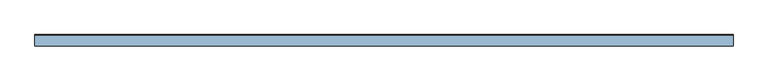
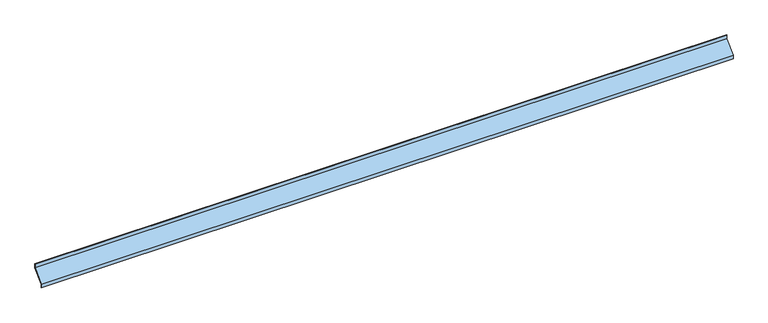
"""IFC4 building model written with IfcOpenShell, lengths in millimetres: window geometry, B2B_Отлив : Отлив_металлический."""

from ifc_helpers import new_model, si_unit, frame, origin, place, context, project, spatial, polyline, outline, extrude, source, transform, mapped, element, save


def window_1c98182c(model_context):
    return source(origin(), model_context, "Body", "SweptSolid", [
        extrude(outline(polyline([(0.0, 29.5956796), (-29.0, -0.4043204), (-29.0, -10.0), (-30.0, -10.0), (-30.0, 0.0), (-1.0, 30.0), (-1.0, 40.0), (0.0, 40.0), (0.0, 29.5956796)])), frame((-935.0, 0.0, 0.0), z_axis=(1.0, 0.0, 0.0), x_axis=(0.0, 1.0, 0.0)), (0.0, 0.0, 1.0), 1870.0),
    ])


if __name__ == "__main__":
    model = new_model("IFC4")
    model_context = context("Model", 3, world=origin())
    ifc_project = project(units=[si_unit("LENGTHUNIT", "METRE", prefix="MILLI")], contexts=[model_context])
    site = spatial("IfcSite", under=ifc_project)
    building = spatial("IfcBuilding", under=site)
    placement = place(None, origin())
    window_shape = window_1c98182c(model_context)
    element("IfcWindow", 1, ObjectType="B2B_Отлив : Отлив_металлический", at=placement, inside=building, context=model_context, shape_type="MappedRepresentation", body=[
        mapped(window_shape, transform((0.0, 0.0, 0.0), x_axis=(1.0, 0.0, 0.0), y_axis=(0.0, 1.0, 0.0), z_axis=(0.0, 0.0, 1.0))),
    ])
    save(model, "model.ifc")
